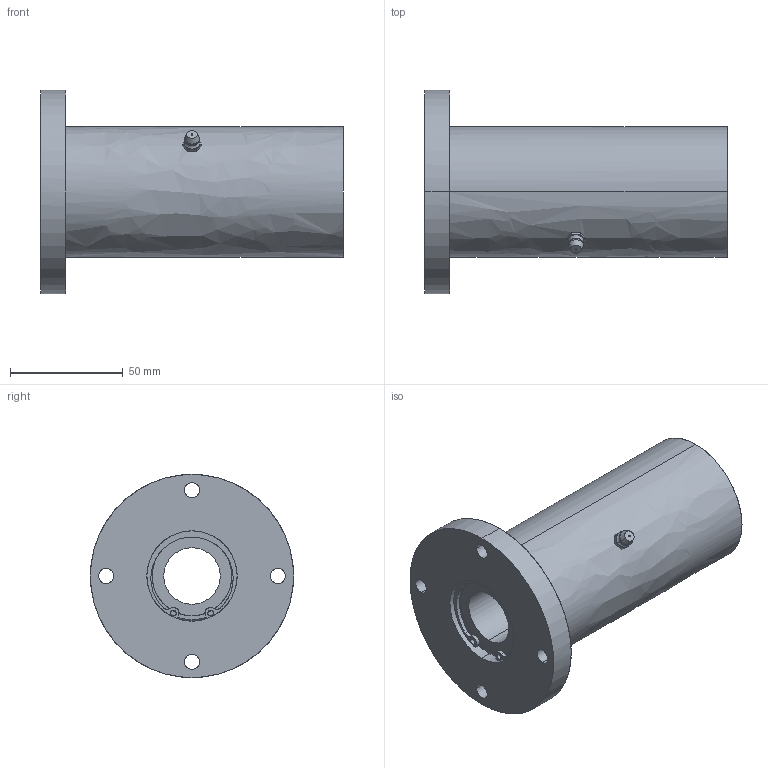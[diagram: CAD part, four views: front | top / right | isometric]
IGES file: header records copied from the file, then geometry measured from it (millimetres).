
Global section: file name: No Iges File Name specified; native system: AutoDesk Inventor R10; preprocessor: AutoDesk Inventor Iges Exporter R10; author: No Author specified; organization: No Organization specified; date: 20101214.142022; units: millimetre
Bounding box: 134 x 90 x 90 mm (x, y, z)
Surface area: 55608.6 mm2 (no closed solid volume)
Topology: 0 solids, 0 shells, 147 faces, 1058 edges, 1056 vertices
Faces by surface type: bspline 147
